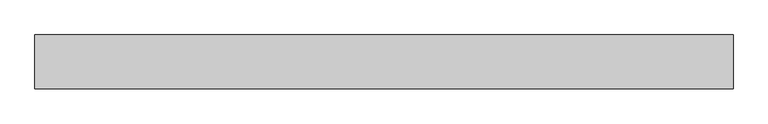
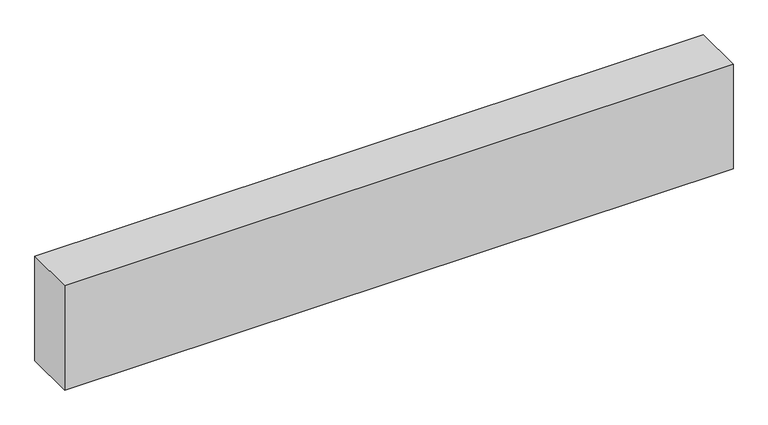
"""IFC4 building model written with IfcOpenShell, lengths in millimetres: proxy geometry."""

from ifc_helpers import new_model, si_unit, frame, origin, place, context, project, spatial, polyline, outline, extrude, source, transform, mapped, element, save


def structural_framing_5a1a455a(model_context):
    return source(origin(), model_context, "Body", "SweptSolid", [
        extrude(outline(polyline([(-910.0, -70.0), (-910.0, 70.0), (910.0, 70.0), (910.0, -70.0), (-910.0, -70.0)])), frame((0.0, 0.0, -300.0), z_axis=(0.0, 0.0, 1.0), x_axis=(1.0, 0.0, 0.0)), (0.0, 0.0, 1.0), 300.0),
    ])


if __name__ == "__main__":
    model = new_model("IFC4")
    model_context = context("Model", 3, world=origin())
    ifc_project = project(units=[si_unit("LENGTHUNIT", "METRE", prefix="MILLI")], contexts=[model_context])
    site = spatial("IfcSite", under=ifc_project)
    building = spatial("IfcBuilding", under=site)
    placement = place(None, origin())
    structural_framing_shape = structural_framing_5a1a455a(model_context)
    element("IfcBuildingElementProxy", 1, Name="Structural Framing", at=placement, inside=building, context=model_context, shape_type="MappedRepresentation", body=[
        mapped(structural_framing_shape, transform((0.0, 0.0, 0.0), x_axis=(1.0, 0.0, 0.0), y_axis=(0.0, 1.0, 0.0), z_axis=(0.0, 0.0, 1.0))),
    ])
    save(model, "model.ifc")
